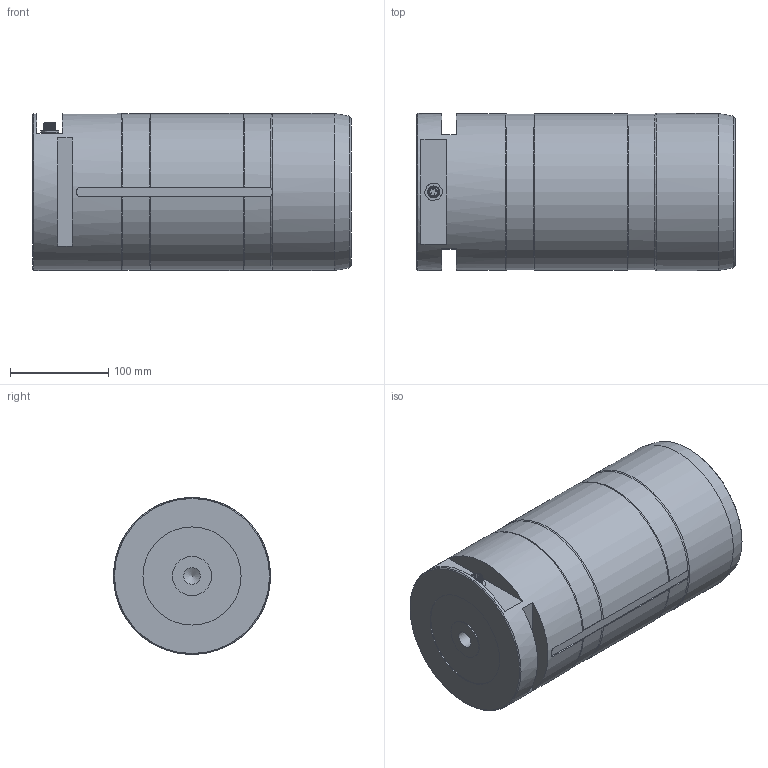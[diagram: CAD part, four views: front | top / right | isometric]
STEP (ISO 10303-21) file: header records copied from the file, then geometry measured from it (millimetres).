
FILE_DESCRIPTION(/* description */ ('Alibre Inc.'),/* implementation_level */ '2;1');
FILE_NAME(/* name */ 'export0',/* time_stamp */ '2016-01-21T11:53:46+01:00',/* author */ (''),/* organization */ (''),/* preprocessor_version */ 'ST-DEVELOPER v14',/* originating_system */ 'Alibre',/* authorisation */ '');
FILE_SCHEMA (('CONFIG_CONTROL_DESIGN'));
Length unit declared in the file: centimetre
Products named in the file (6): ID_1; ID_2; ID_3; ID_4
Bounding box: 324 x 160 x 160 mm (x, y, z)
Volume: 6366229.5 mm3; surface area: 219599.3 mm2
Topology: 8 solids, 8 shells, 161 faces, 362 edges, 226 vertices
Faces by surface type: plane 64, cylinder 55, bspline 23, cone 10, torus 9
Full cylindrical faces by diameter (mm): 0.5 x8, 8 x2, 10 x3, 11.5 x1, 13 x1, 14.376 x1, 17.294 x2, 40 x1, 100 x1, 160 x2
Entity records: 14811 total; most frequent: CARTESIAN_POINT 11354, ORIENTED_EDGE 638, DIRECTION 427, EDGE_CURVE 314, VERTEX_POINT 213, FACE_BOUND 212, EDGE_LOOP 209, AXIS2_PLACEMENT_3D 191
